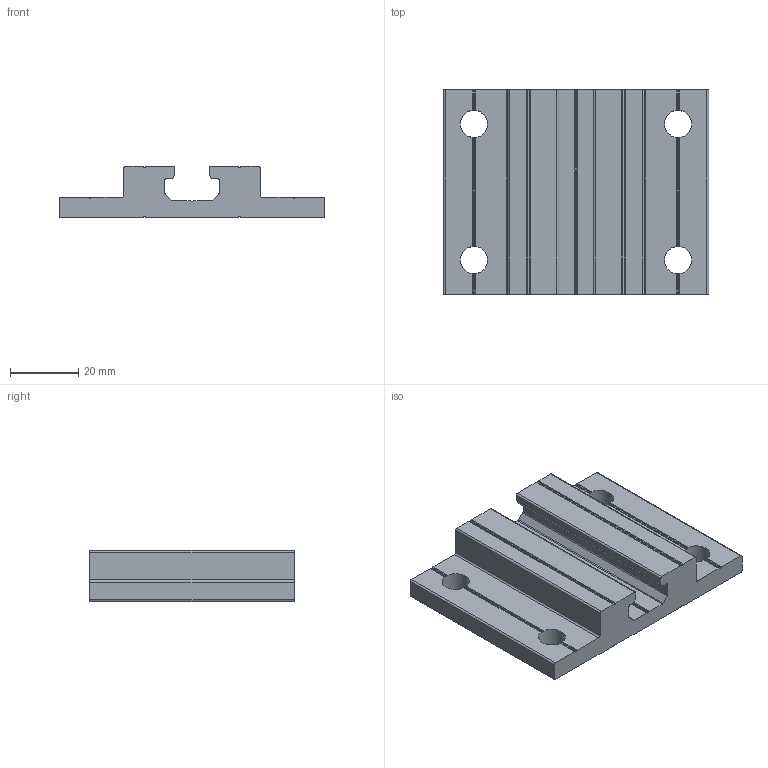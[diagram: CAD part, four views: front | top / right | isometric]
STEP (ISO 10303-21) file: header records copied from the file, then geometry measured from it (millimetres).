
FILE_DESCRIPTION(('STEP AP214'),'1');
FILE_NAME('BF4T-L60.stp','2017-07-26T06:54:17',(' '),(' '),'Spatial InterOp 3D',' ',' ');
FILE_SCHEMA(('automotive_design'));
Length unit declared in the file: millimetre
Products named in the file (1): BF4T-L60
Bounding box: 78 x 60 x 15 mm (x, y, z)
Volume: 40245.7 mm3; surface area: 14350.2 mm2
Topology: 1 solids, 1 shells, 108 faces, 330 edges, 220 vertices
Faces by surface type: cylinder 57, plane 51
Full cylindrical faces by diameter (mm): 8 x4
Entity records: 4604 total; most frequent: CARTESIAN_POINT 735, ORIENTED_EDGE 644, DIRECTION 626, EDGE_CURVE 322, AXIS2_PLACEMENT_3D 219, VERTEX_POINT 216, LINE 188, VECTOR 188
